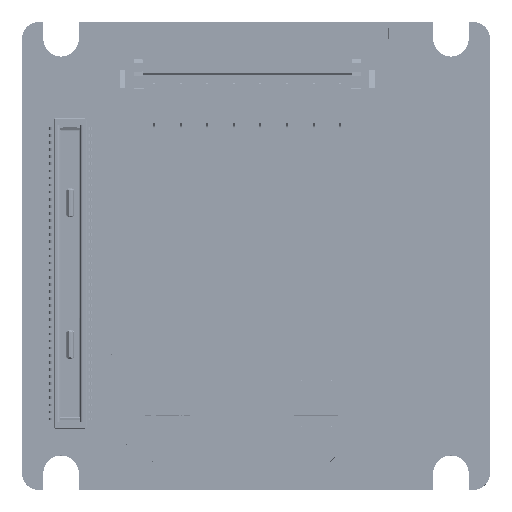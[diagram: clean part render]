
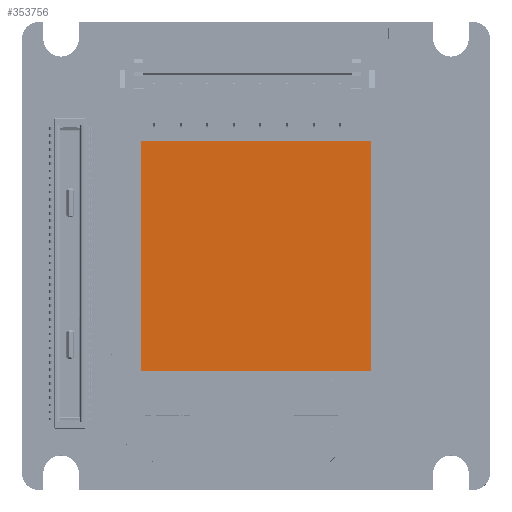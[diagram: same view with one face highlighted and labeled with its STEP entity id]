
A CAD part, top view. The second image highlights one B-rep face of the part: STEP entity #353756.
In plain terms, the highlighted planar face has unit normal (0, 0, 1).
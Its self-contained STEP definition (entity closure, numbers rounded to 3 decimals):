
#4100 = VECTOR ( 'NONE', #373943, 1000. ) ;
#9709 = LINE ( 'NONE', #413486, #155301 ) ;
#33422 = ORIENTED_EDGE ( 'NONE', *, *, #197362, .F. ) ;
#36748 = VERTEX_POINT ( 'NONE', #367071 ) ;
#94461 = ORIENTED_EDGE ( 'NONE', *, *, #214331, .F. ) ;
#103801 = DIRECTION ( 'NONE',  ( 1., 0., 0. ) ) ;
#111923 = ORIENTED_EDGE ( 'NONE', *, *, #201504, .F. ) ;
#123179 = LINE ( 'NONE', #238332, #343365 ) ;
#135063 = VERTEX_POINT ( 'NONE', #221855 ) ;
#148100 = LINE ( 'NONE', #340263, #4100 ) ;
#155301 = VECTOR ( 'NONE', #341291, 1000. ) ;
#168806 = PLANE ( 'NONE',  #406882 ) ;
#197362 = EDGE_CURVE ( 'NONE', #135063, #263931, #406999, .T. ) ;
#201504 = EDGE_CURVE ( 'NONE', #263931, #36748, #123179, .T. ) ;
#209585 = CARTESIAN_POINT ( 'NONE',  ( -6.5, -6.5, 6.162 ) ) ;
#214331 = EDGE_CURVE ( 'NONE', #405425, #135063, #148100, .T. ) ;
#221855 = CARTESIAN_POINT ( 'NONE',  ( 6.5, 6.5, 6.162 ) ) ;
#228873 = CARTESIAN_POINT ( 'NONE',  ( 6.5, 6.5, 6.162 ) ) ;
#238332 = CARTESIAN_POINT ( 'NONE',  ( 6.5, -6.5, 6.162 ) ) ;
#263931 = VERTEX_POINT ( 'NONE', #381115 ) ;
#273814 = ORIENTED_EDGE ( 'NONE', *, *, #351068, .F. ) ;
#312166 = CARTESIAN_POINT ( 'NONE',  ( -6.5, 6.5, 6.162 ) ) ;
#340263 = CARTESIAN_POINT ( 'NONE',  ( -6.5, 6.5, 6.162 ) ) ;
#341291 = DIRECTION ( 'NONE',  ( 0., 1., 0. ) ) ;
#343365 = VECTOR ( 'NONE', #452633, 1000. ) ;
#351068 = EDGE_CURVE ( 'NONE', #36748, #405425, #9709, .T. ) ;
#351502 = FACE_OUTER_BOUND ( 'NONE', #416469, .T. ) ;
#353756 = ADVANCED_FACE ( 'NONE', ( #351502 ), #168806, .T. ) ;
#367071 = CARTESIAN_POINT ( 'NONE',  ( -6.5, -6.5, 6.162 ) ) ;
#373943 = DIRECTION ( 'NONE',  ( 1., 0., 0. ) ) ;
#375586 = DIRECTION ( 'NONE',  ( 0., -1., 0. ) ) ;
#381115 = CARTESIAN_POINT ( 'NONE',  ( 6.5, -6.5, 6.162 ) ) ;
#397149 = DIRECTION ( 'NONE',  ( 0., 0., 1. ) ) ;
#398800 = VECTOR ( 'NONE', #375586, 1000. ) ;
#405425 = VERTEX_POINT ( 'NONE', #312166 ) ;
#406882 = AXIS2_PLACEMENT_3D ( 'NONE', #209585, #397149, #103801 ) ;
#406999 = LINE ( 'NONE', #228873, #398800 ) ;
#413486 = CARTESIAN_POINT ( 'NONE',  ( -6.5, -6.5, 6.162 ) ) ;
#416469 = EDGE_LOOP ( 'NONE', ( #94461, #273814, #111923, #33422 ) ) ;
#452633 = DIRECTION ( 'NONE',  ( -1., 0., 0. ) ) ;
